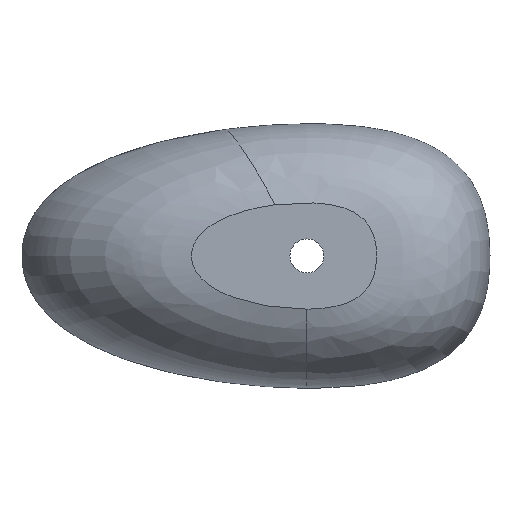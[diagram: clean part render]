
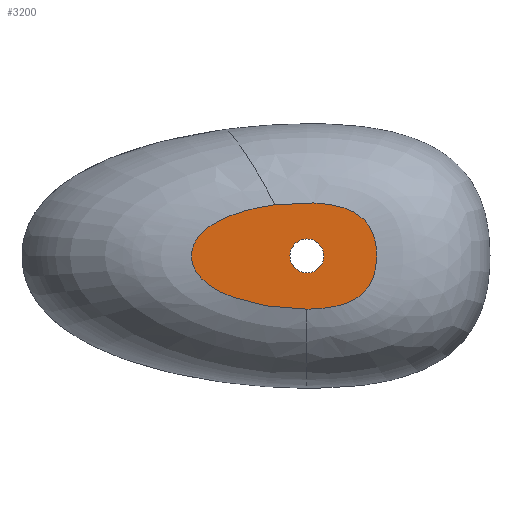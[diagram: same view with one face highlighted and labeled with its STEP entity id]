
A CAD part, front view. The second image highlights one B-rep face of the part: STEP entity #3200.
In plain terms, the highlighted planar face has unit normal (0, -1, 0).
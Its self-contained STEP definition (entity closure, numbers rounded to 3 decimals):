
#124 = CARTESIAN_POINT ( 'NONE',  ( -85., -160., 0. ) ) ;
#125 = CARTESIAN_POINT ( 'NONE',  ( 67.669, -160., 0. ) ) ;
#186 = CIRCLE ( 'NONE', #332, 22.5 ) ;
#188 = DIRECTION ( 'NONE',  ( 0., 0., -1. ) ) ;
#189 = DIRECTION ( 'NONE',  ( 0., -1., 0. ) ) ;
#190 = CARTESIAN_POINT ( 'NONE',  ( 69.739, -160., 70.378 ) ) ;
#191 = AXIS2_PLACEMENT_3D ( 'NONE', #190, #189, #188 ) ;
#192 = PLANE ( 'NONE',  #191 ) ;
#194 = FACE_BOUND ( 'NONE', #3206, .T. ) ;
#195 = FACE_OUTER_BOUND ( 'NONE', #3219, .T. ) ;
#196 = B_SPLINE_CURVE_WITH_KNOTS ( 'NONE', 3,
 ( #869, #871, #874, #875 ),
 .UNSPECIFIED., .F., .F.,
 ( 4, 4 ),
 ( 0., 0.39 ),
 .UNSPECIFIED. ) ;
#330 = DIRECTION ( 'NONE',  ( 0., 0., -1. ) ) ;
#331 = DIRECTION ( 'NONE',  ( 0., 1., 0. ) ) ;
#332 = AXIS2_PLACEMENT_3D ( 'NONE', #125, #331, #330 ) ;
#869 = CARTESIAN_POINT ( 'NONE',  ( -85., -160., 0. ) ) ;
#871 = CARTESIAN_POINT ( 'NONE',  ( -85., -160., 38.789 ) ) ;
#874 = CARTESIAN_POINT ( 'NONE',  ( -29.233, -160., 60.462 ) ) ;
#875 = CARTESIAN_POINT ( 'NONE',  ( 25.138, -160., 67.672 ) ) ;
#2791 = CARTESIAN_POINT ( 'NONE',  ( -85., -160., 0. ) ) ;
#2792 = CARTESIAN_POINT ( 'NONE',  ( -85., -160., -49.241 ) ) ;
#2793 = CARTESIAN_POINT ( 'NONE',  ( 4.871, -160., -70.899 ) ) ;
#2794 = CARTESIAN_POINT ( 'NONE',  ( 67.669, -160., -70.403 ) ) ;
#2795 = B_SPLINE_CURVE_WITH_KNOTS ( 'NONE', 3,
 ( #2794, #2793, #2792, #2791 ),
 .UNSPECIFIED., .F., .F.,
 ( 4, 4 ),
 ( 0.505, 1. ),
 .UNSPECIFIED. ) ;
#3068 = EDGE_CURVE ( 'NONE', #3070, #3074, #4565, .T. ) ;
#3070 = VERTEX_POINT ( 'NONE', #4566 ) ;
#3074 = VERTEX_POINT ( 'NONE', #4560 ) ;
#3094 = VERTEX_POINT ( 'NONE', #4832 ) ;
#3101 = EDGE_CURVE ( 'NONE', #3308, #3094, #6993, .T. ) ;
#3197 = VERTEX_POINT ( 'NONE', #124 ) ;
#3200 = ADVANCED_FACE ( 'NONE', ( #195, #194 ), #192, .T. ) ;
#3201 = ORIENTED_EDGE ( 'NONE', *, *, #3315, .F. ) ;
#3202 = ORIENTED_EDGE ( 'NONE', *, *, #3215, .F. ) ;
#3206 = EDGE_LOOP ( 'NONE', ( #3220, #3209 ) ) ;
#3207 = ORIENTED_EDGE ( 'NONE', *, *, #3101, .F. ) ;
#3208 = EDGE_CURVE ( 'NONE', #3074, #3070, #186, .T. ) ;
#3209 = ORIENTED_EDGE ( 'NONE', *, *, #3068, .T. ) ;
#3213 = EDGE_CURVE ( 'NONE', #3197, #3308, #196, .T. ) ;
#3215 = EDGE_CURVE ( 'NONE', #3312, #3197, #2795, .T. ) ;
#3219 = EDGE_LOOP ( 'NONE', ( #3224, #3202, #3201, #3207 ) ) ;
#3220 = ORIENTED_EDGE ( 'NONE', *, *, #3208, .T. ) ;
#3224 = ORIENTED_EDGE ( 'NONE', *, *, #3213, .F. ) ;
#3308 = VERTEX_POINT ( 'NONE', #6656 ) ;
#3312 = VERTEX_POINT ( 'NONE', #6807 ) ;
#3315 = EDGE_CURVE ( 'NONE', #3094, #3312, #6802, .T. ) ;
#4560 = CARTESIAN_POINT ( 'NONE',  ( 67.669, -160., 22.5 ) ) ;
#4561 = DIRECTION ( 'NONE',  ( 0., 0., -1. ) ) ;
#4562 = DIRECTION ( 'NONE',  ( 0., 1., 0. ) ) ;
#4563 = CARTESIAN_POINT ( 'NONE',  ( 67.669, -160., 0. ) ) ;
#4564 = AXIS2_PLACEMENT_3D ( 'NONE', #4563, #4562, #4561 ) ;
#4565 = CIRCLE ( 'NONE', #4564, 22.5 ) ;
#4566 = CARTESIAN_POINT ( 'NONE',  ( 67.669, -160., -22.5 ) ) ;
#4832 = CARTESIAN_POINT ( 'NONE',  ( 160., -160., 0. ) ) ;
#6656 = CARTESIAN_POINT ( 'NONE',  ( 25.138, -160., 67.672 ) ) ;
#6801 = CARTESIAN_POINT ( 'NONE',  ( 160., -160., 0. ) ) ;
#6802 = B_SPLINE_CURVE_WITH_KNOTS ( 'NONE', 3,
 ( #6801, #6862, #6861, #6860, #6859 ),
 .UNSPECIFIED., .F., .F.,
 ( 4, 1, 4 ),
 ( 0., 0.472, 0.505 ),
 .UNSPECIFIED. ) ;
#6807 = CARTESIAN_POINT ( 'NONE',  ( 67.669, -160., -70.403 ) ) ;
#6859 = CARTESIAN_POINT ( 'NONE',  ( 67.669, -160., -70.403 ) ) ;
#6860 = CARTESIAN_POINT ( 'NONE',  ( 71.915, -160., -70.369 ) ) ;
#6861 = CARTESIAN_POINT ( 'NONE',  ( 134.229, -160., -68.331 ) ) ;
#6862 = CARTESIAN_POINT ( 'NONE',  ( 160., -160., -43.534 ) ) ;
#6993 = B_SPLINE_CURVE_WITH_KNOTS ( 'NONE', 3,
 ( #7041, #7040, #7039, #7038, #7037 ),
 .UNSPECIFIED., .F., .F.,
 ( 4, 1, 4 ),
 ( 0.39, 0.528, 1. ),
 .UNSPECIFIED. ) ;
#7037 = CARTESIAN_POINT ( 'NONE',  ( 160., -160., 0. ) ) ;
#7038 = CARTESIAN_POINT ( 'NONE',  ( 160., -160., 43.534 ) ) ;
#7039 = CARTESIAN_POINT ( 'NONE',  ( 128.876, -160., 73.481 ) ) ;
#7040 = CARTESIAN_POINT ( 'NONE',  ( 44.456, -160., 70.234 ) ) ;
#7041 = CARTESIAN_POINT ( 'NONE',  ( 25.138, -160., 67.672 ) ) ;
